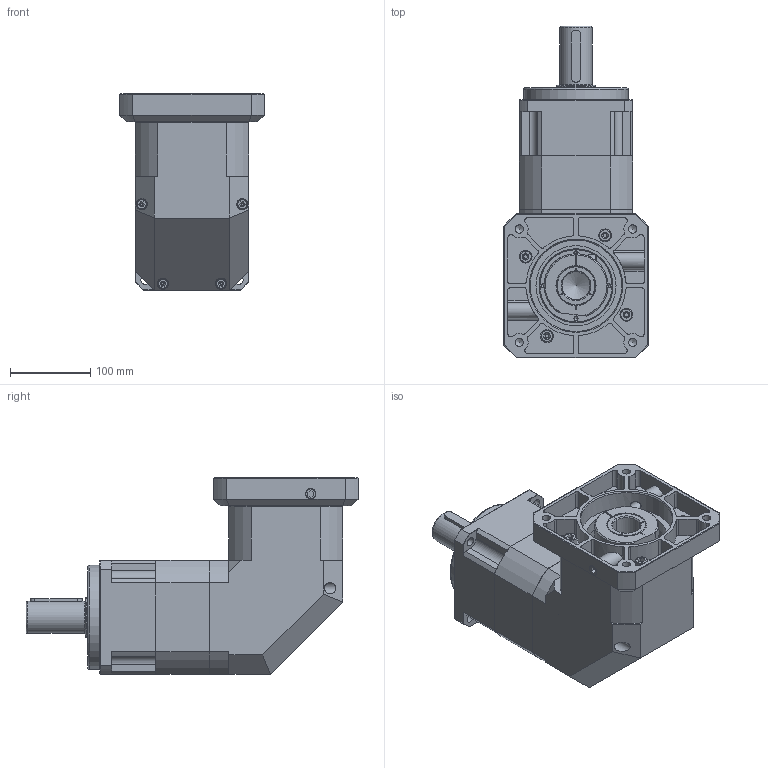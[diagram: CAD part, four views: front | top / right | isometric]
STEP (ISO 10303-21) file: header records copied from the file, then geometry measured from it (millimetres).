
FILE_DESCRIPTION((''),'2;1');
FILE_NAME('C:\Work\감속기 카다로그 도면\ATG Reducer(홈페이지)\PBL-H\STP\PBL142-H-2.stp','2014-05-27T14:53:31',('young'),(''),'Autodesk Inventor 2012','Autodesk Inventor 2012','');
FILE_SCHEMA(('AUTOMOTIVE_DESIGN { 1 0 10303 214 1 1 1 1 }'));
Length unit declared in the file: millimetre
Products named in the file (1): PBL142-H-2
Bounding box: 180 x 414 x 245 mm (x, y, z)
Volume: 5915111.8 mm3; surface area: 634900.5 mm2
Topology: 22 solids, 22 shells, 752 faces, 1906 edges, 1259 vertices
Faces by surface type: plane 403, cylinder 211, cone 101, torus 19, bspline 18
Full cylindrical faces by diameter (mm): 5 x4, 6.8 x4, 8 x4, 8.5 x12, 8.6 x1, 10 x9, 10.2 x5, 10.5 x4, 11 x5, 11.125 x2, 12 x1, 13 x6, 14 x4, 16 x5, 25 x1, 35 x1, 40 x1, 48 x1, 48.4 x1, 49.8 x2, 50 x2, 62 x1, 68 x1, 70 x1, 72 x5, 75 x1, 80 x1, 92 x2, 100 x1, 114.3 x1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
Entity records: 29524 total; most frequent: CARTESIAN_POINT 12326, DIRECTION 3483, ORIENTED_EDGE 3378, EDGE_CURVE 1689, AXIS2_PLACEMENT_3D 1332, VERTEX_POINT 1215, EDGE_LOOP 1038, VECTOR 819
